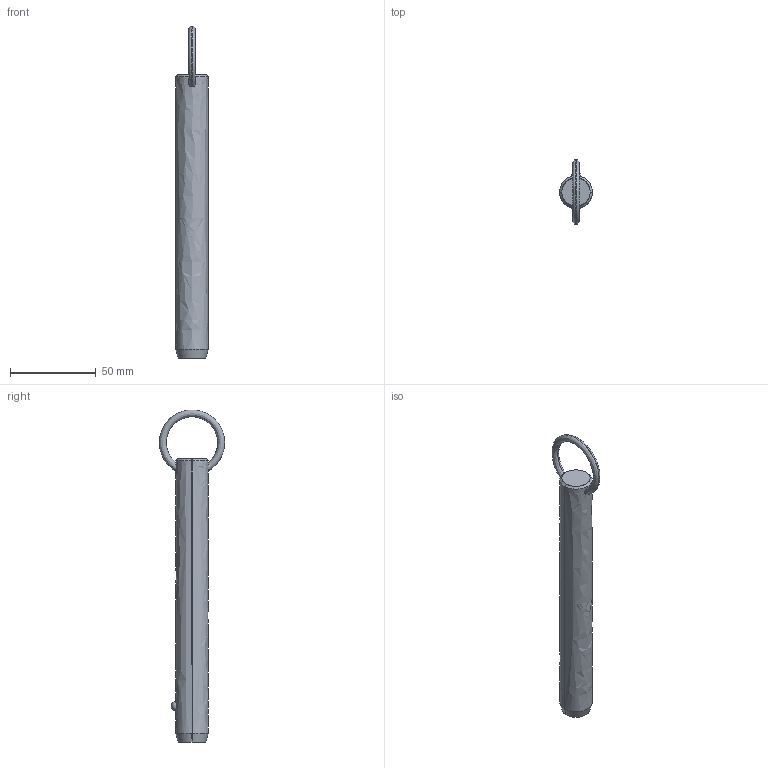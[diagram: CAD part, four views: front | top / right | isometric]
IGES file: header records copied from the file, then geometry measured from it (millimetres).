
Start section: SolidWorks IGES file using analytic representation for surfaces
Global section: file name: C:\Users\liam_\OneDrive\Documents\WORK\Work for WixRoyd\Job Files\J-00019 - Matt Davis CAD Checking\04. CAD Drawings\automotion20190605\P1250.2_v2\P1250.2_v2_20190729_IGES\P1250.075-520.igs; native system: SolidWorks 2017; preprocessor: SolidWorks 2017; author: liam_; date: 190729.235652; units: millimetre
Bounding box: 19 x 38.09 x 193.89 mm (x, y, z)
Surface area: 11399.6 mm2 (no closed solid volume)
Topology: 0 solids, 0 shells, 12 faces, 294 edges, 292 vertices
Faces by surface type: revolution 8, bspline 4
